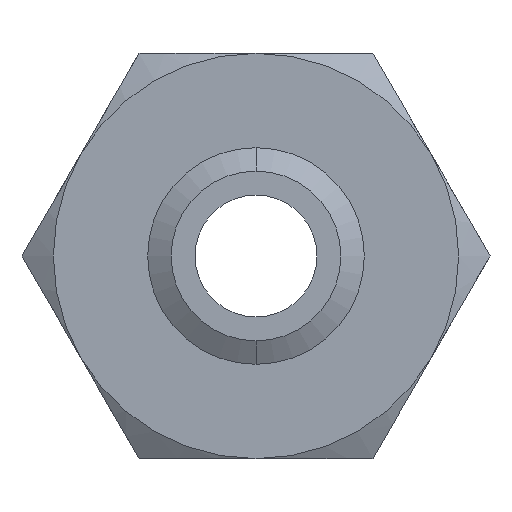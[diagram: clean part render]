
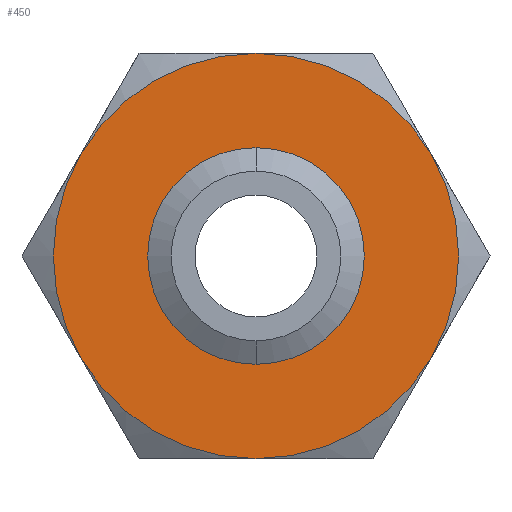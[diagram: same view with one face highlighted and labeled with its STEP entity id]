
A CAD part, front view. The second image highlights one B-rep face of the part: STEP entity #450.
In plain terms, the highlighted planar face has unit normal (0, -1, 0).
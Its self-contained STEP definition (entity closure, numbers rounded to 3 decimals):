
#168 = ORIENTED_EDGE ( 'NONE', *, *, #205, .F. ) ;
#170 = ORIENTED_EDGE ( 'NONE', *, *, #1978, .F. ) ;
#177 = EDGE_LOOP ( 'NONE', ( #170, #168 ) ) ;
#205 = EDGE_CURVE ( 'NONE', #1970, #1967, #869, .T. ) ;
#216 = VERTEX_POINT ( 'NONE', #885 ) ;
#219 = EDGE_CURVE ( 'NONE', #442, #216, #872, .T. ) ;
#220 = ORIENTED_EDGE ( 'NONE', *, *, #219, .F. ) ;
#228 = VERTEX_POINT ( 'NONE', #902 ) ;
#229 = EDGE_CURVE ( 'NONE', #216, #228, #948, .T. ) ;
#230 = ORIENTED_EDGE ( 'NONE', *, *, #229, .F. ) ;
#231 = EDGE_CURVE ( 'NONE', #228, #233, #943, .T. ) ;
#232 = ORIENTED_EDGE ( 'NONE', *, *, #231, .F. ) ;
#233 = VERTEX_POINT ( 'NONE', #939 ) ;
#300 = VERTEX_POINT ( 'NONE', #1107 ) ;
#440 = EDGE_CURVE ( 'NONE', #441, #442, #1342, .T. ) ;
#441 = VERTEX_POINT ( 'NONE', #1337 ) ;
#442 = VERTEX_POINT ( 'NONE', #1336 ) ;
#443 = ORIENTED_EDGE ( 'NONE', *, *, #444, .F. ) ;
#444 = EDGE_CURVE ( 'NONE', #300, #441, #1335, .T. ) ;
#450 = ADVANCED_FACE ( 'NONE', ( #1383, #1382 ), #1381, .F. ) ;
#451 = EDGE_LOOP ( 'NONE', ( #452, #443, #1896, #232, #230, #220 ) ) ;
#452 = ORIENTED_EDGE ( 'NONE', *, *, #440, .F. ) ;
#865 = DIRECTION ( 'NONE',  ( 0., 0., -1. ) ) ;
#866 = DIRECTION ( 'NONE',  ( 0., -1., 0. ) ) ;
#867 = CARTESIAN_POINT ( 'NONE',  ( 0., 0., 0. ) ) ;
#868 = AXIS2_PLACEMENT_3D ( 'NONE', #867, #866, #865 ) ;
#869 = CIRCLE ( 'NONE', #868, 19.901 ) ;
#872 = CIRCLE ( 'NONE', #883, 47.5 ) ;
#883 = AXIS2_PLACEMENT_3D ( 'NONE', #916, #915, #914 ) ;
#885 = CARTESIAN_POINT ( 'NONE',  ( 41.136, 0., -23.75 ) ) ;
#901 = CARTESIAN_POINT ( 'NONE',  ( 0., 0., 0. ) ) ;
#902 = CARTESIAN_POINT ( 'NONE',  ( 0., 0., -47.5 ) ) ;
#914 = DIRECTION ( 'NONE',  ( 0., 0., 1. ) ) ;
#915 = DIRECTION ( 'NONE',  ( 0., 1., 0. ) ) ;
#916 = CARTESIAN_POINT ( 'NONE',  ( 0., 0., 0. ) ) ;
#939 = CARTESIAN_POINT ( 'NONE',  ( -41.136, 0., -23.75 ) ) ;
#940 = DIRECTION ( 'NONE',  ( 0., 0., 1. ) ) ;
#941 = DIRECTION ( 'NONE',  ( 0., 1., 0. ) ) ;
#942 = AXIS2_PLACEMENT_3D ( 'NONE', #901, #941, #940 ) ;
#943 = CIRCLE ( 'NONE', #942, 47.5 ) ;
#944 = DIRECTION ( 'NONE',  ( 0., 0., 1. ) ) ;
#945 = DIRECTION ( 'NONE',  ( 0., 1., 0. ) ) ;
#946 = CARTESIAN_POINT ( 'NONE',  ( 0., 0., 0. ) ) ;
#947 = AXIS2_PLACEMENT_3D ( 'NONE', #946, #945, #944 ) ;
#948 = CIRCLE ( 'NONE', #947, 47.5 ) ;
#1107 = CARTESIAN_POINT ( 'NONE',  ( -41.136, 0., 23.75 ) ) ;
#1331 = DIRECTION ( 'NONE',  ( 0., 0., 1. ) ) ;
#1332 = DIRECTION ( 'NONE',  ( 0., 1., 0. ) ) ;
#1333 = CARTESIAN_POINT ( 'NONE',  ( 0., 0., 0. ) ) ;
#1334 = AXIS2_PLACEMENT_3D ( 'NONE', #1333, #1332, #1331 ) ;
#1335 = CIRCLE ( 'NONE', #1334, 47.5 ) ;
#1336 = CARTESIAN_POINT ( 'NONE',  ( 41.136, 0., 23.75 ) ) ;
#1337 = CARTESIAN_POINT ( 'NONE',  ( 0., 0., 47.5 ) ) ;
#1338 = DIRECTION ( 'NONE',  ( 0., 0., 1. ) ) ;
#1339 = DIRECTION ( 'NONE',  ( 0., 1., 0. ) ) ;
#1340 = CARTESIAN_POINT ( 'NONE',  ( 0., 0., 0. ) ) ;
#1341 = AXIS2_PLACEMENT_3D ( 'NONE', #1340, #1339, #1338 ) ;
#1342 = CIRCLE ( 'NONE', #1341, 47.5 ) ;
#1377 = DIRECTION ( 'NONE',  ( 0., 0., 1. ) ) ;
#1378 = DIRECTION ( 'NONE',  ( 0., 1., 0. ) ) ;
#1379 = CARTESIAN_POINT ( 'NONE',  ( 27.424, 0., -47.5 ) ) ;
#1380 = AXIS2_PLACEMENT_3D ( 'NONE', #1379, #1378, #1377 ) ;
#1381 = PLANE ( 'NONE',  #1380 ) ;
#1382 = FACE_BOUND ( 'NONE', #177, .T. ) ;
#1383 = FACE_OUTER_BOUND ( 'NONE', #451, .T. ) ;
#1442 = DIRECTION ( 'NONE',  ( 0., 0., 1. ) ) ;
#1443 = DIRECTION ( 'NONE',  ( 0., 1., 0. ) ) ;
#1444 = CARTESIAN_POINT ( 'NONE',  ( 0., 0., 0. ) ) ;
#1445 = AXIS2_PLACEMENT_3D ( 'NONE', #1444, #1443, #1442 ) ;
#1446 = CIRCLE ( 'NONE', #1445, 47.5 ) ;
#1572 = CARTESIAN_POINT ( 'NONE',  ( 0., 0., -19.901 ) ) ;
#1611 = DIRECTION ( 'NONE',  ( 0., 0., -1. ) ) ;
#1612 = DIRECTION ( 'NONE',  ( 0., -1., 0. ) ) ;
#1613 = CARTESIAN_POINT ( 'NONE',  ( 0., 0., 0. ) ) ;
#1614 = AXIS2_PLACEMENT_3D ( 'NONE', #1613, #1612, #1611 ) ;
#1615 = CIRCLE ( 'NONE', #1614, 19.901 ) ;
#1633 = CARTESIAN_POINT ( 'NONE',  ( 0., 0., 19.901 ) ) ;
#1896 = ORIENTED_EDGE ( 'NONE', *, *, #1897, .F. ) ;
#1897 = EDGE_CURVE ( 'NONE', #233, #300, #1446, .T. ) ;
#1967 = VERTEX_POINT ( 'NONE', #1572 ) ;
#1970 = VERTEX_POINT ( 'NONE', #1633 ) ;
#1978 = EDGE_CURVE ( 'NONE', #1967, #1970, #1615, .T. ) ;
